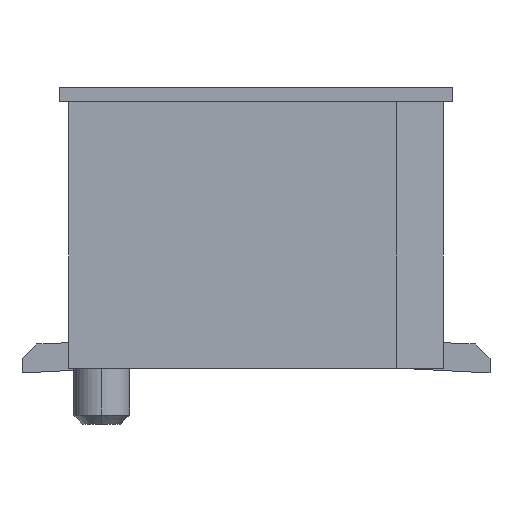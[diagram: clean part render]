
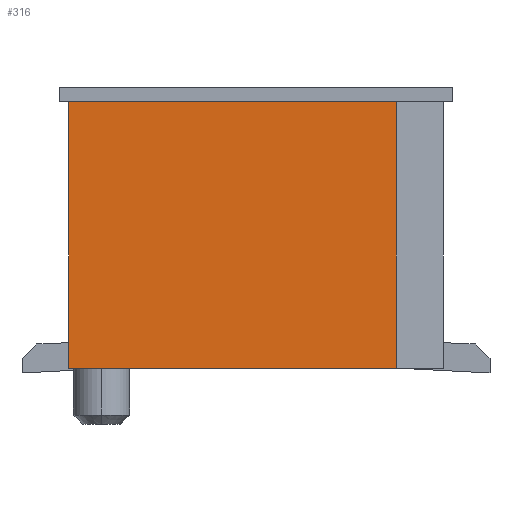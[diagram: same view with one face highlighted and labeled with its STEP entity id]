
A CAD part, left-side view. The second image highlights one B-rep face of the part: STEP entity #316.
In plain terms, the highlighted planar face has unit normal (-1, 0, 0).
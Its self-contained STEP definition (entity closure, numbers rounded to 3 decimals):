
#277=CARTESIAN_POINT('Axis2P3D Location',(-4.55,0.,0.)) ;
#282=CARTESIAN_POINT('Line Origine',(-4.55,-1.5,1.425)) ;
#286=CARTESIAN_POINT('Vertex',(-4.55,-1.5,2.85)) ;
#288=CARTESIAN_POINT('Vertex',(-4.55,-1.5,0.)) ;
#291=CARTESIAN_POINT('Line Origine',(-4.55,0.25,2.85)) ;
#295=CARTESIAN_POINT('Vertex',(-4.55,2.,2.85)) ;
#298=CARTESIAN_POINT('Line Origine',(-4.55,2.,1.425)) ;
#302=CARTESIAN_POINT('Vertex',(-4.55,2.,0.)) ;
#305=CARTESIAN_POINT('Line Origine',(-4.55,0.25,0.)) ;
#278=DIRECTION('Axis2P3D Direction',(1.,0.,0.)) ;
#279=DIRECTION('Axis2P3D XDirection',(0.,1.,0.)) ;
#283=DIRECTION('Vector Direction',(0.,0.,-1.)) ;
#292=DIRECTION('Vector Direction',(0.,-1.,0.)) ;
#299=DIRECTION('Vector Direction',(0.,0.,1.)) ;
#306=DIRECTION('Vector Direction',(0.,1.,0.)) ;
#280=AXIS2_PLACEMENT_3D('Plane Axis2P3D',#277,#278,#279) ;
#311=ORIENTED_EDGE('',*,*,#290,.F.) ;
#312=ORIENTED_EDGE('',*,*,#297,.F.) ;
#313=ORIENTED_EDGE('',*,*,#304,.F.) ;
#314=ORIENTED_EDGE('',*,*,#309,.F.) ;
#284=VECTOR('Line Direction',#283,1.) ;
#293=VECTOR('Line Direction',#292,1.) ;
#300=VECTOR('Line Direction',#299,1.) ;
#307=VECTOR('Line Direction',#306,1.) ;
#316=ADVANCED_FACE('\X2\96F64EF651E04F554F53\X0\',(#315),#281,.F.) ;
#290=EDGE_CURVE('',#287,#289,#285,.T.) ;
#297=EDGE_CURVE('',#296,#287,#294,.T.) ;
#304=EDGE_CURVE('',#303,#296,#301,.T.) ;
#309=EDGE_CURVE('',#289,#303,#308,.T.) ;
#310=EDGE_LOOP('',(#311,#312,#313,#314)) ;
#315=FACE_OUTER_BOUND('',#310,.T.) ;
#285=LINE('Line',#282,#284) ;
#294=LINE('Line',#291,#293) ;
#301=LINE('Line',#298,#300) ;
#308=LINE('Line',#305,#307) ;
#281=PLANE('Plane',#280) ;
#287=VERTEX_POINT('',#286) ;
#289=VERTEX_POINT('',#288) ;
#296=VERTEX_POINT('',#295) ;
#303=VERTEX_POINT('',#302) ;
